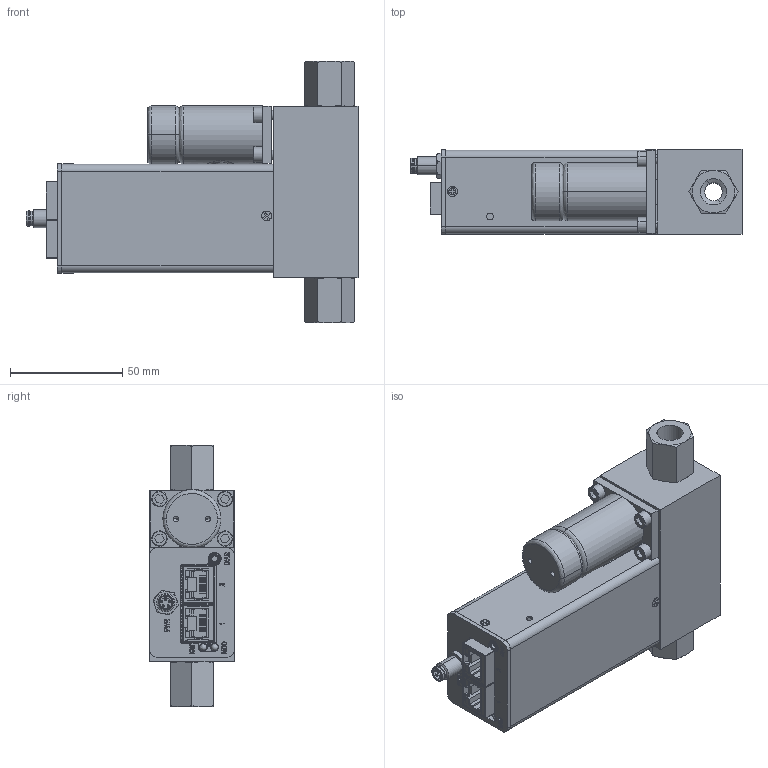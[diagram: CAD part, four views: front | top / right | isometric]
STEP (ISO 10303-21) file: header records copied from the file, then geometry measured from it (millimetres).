
FILE_DESCRIPTION (( 'STEP AP203' ), '1' );
FILE_NAME ('SLA5850-8-1G-1-A-REVB.STEP', '2020-07-29T15:07:41', ( '' ), ( '' ), 'SwSTEP 2.0', 'SolidWorks 2019', '' );
FILE_SCHEMA (( 'CONFIG_CONTROL_DESIGN' ));
Products named in the file (2): SLA5850-8-1G-1-A-REVB
Bounding box: 147.97 x 38.07 x 116.55 mm (x, y, z)
Volume: 67495.2 mm3; surface area: 97715.9 mm2
Topology: 50 solids, 50 shells, 2216 faces, 5861 edges, 3805 vertices
Faces by surface type: plane 1401, cylinder 531, bspline 171, cone 113
Entity records: 73435 total; most frequent: CARTESIAN_POINT 18576, ORIENTED_EDGE 11686, DIRECTION 10904, EDGE_CURVE 5843, VECTOR 4180, LINE 4180, VERTEX_POINT 3805, AXIS2_PLACEMENT_3D 3362
